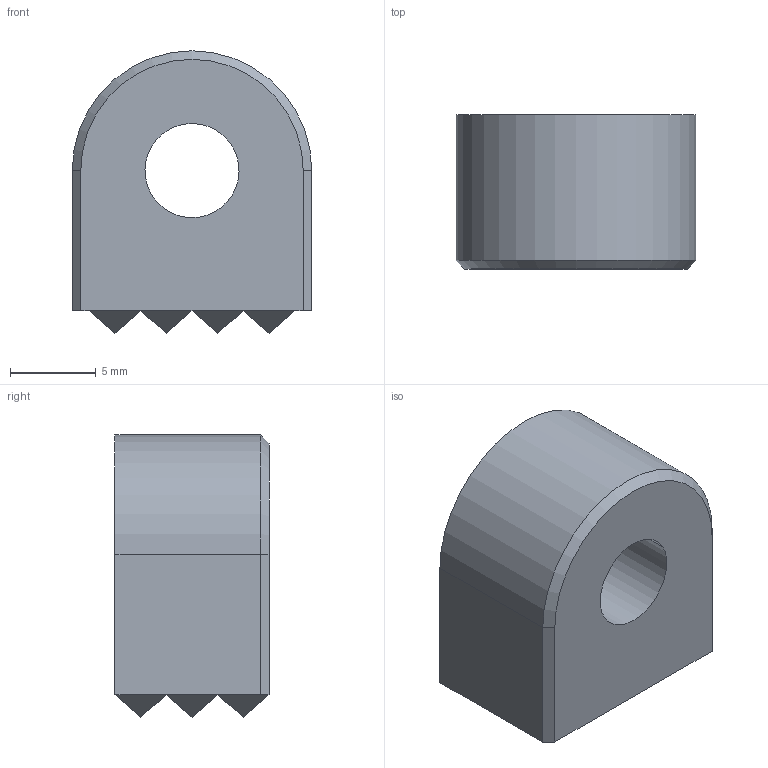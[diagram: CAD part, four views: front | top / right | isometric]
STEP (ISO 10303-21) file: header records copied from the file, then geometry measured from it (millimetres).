
FILE_DESCRIPTION(('CATIA V5 STEP'),'2;1');
FILE_NAME('\\Kjf-102\KJF_TC\Hydraulic_Clamp\Standard\TOGGLE PAD\CP-70\CP-70_-.stp','2020-12-24T02:47:50+00:00',('none'),('none'),'CATIA Version 5 Release 19 SP 6 (IN-10)','CATIA V5 STEP AP214','none');
FILE_SCHEMA(('AUTOMOTIVE_DESIGN { 1 0 10303 214 1 1 1 1 }'));
Length unit declared in the file: millimetre
Products named in the file (1): CP-70
Bounding box: 14 x 9 x 16.5 mm (x, y, z)
Volume: 1365.3 mm3; surface area: 1036.6 mm2
Topology: 1 solids, 1 shells, 63 faces, 112 edges, 52 vertices
Faces by surface type: plane 57, cylinder 5, cone 1
Entity records: 1243 total; most frequent: ORIENTED_EDGE 224, CARTESIAN_POINT 191, DIRECTION 164, EDGE_CURVE 112, VECTOR 101, LINE 101, EDGE_LOOP 66, ADVANCED_FACE 63
